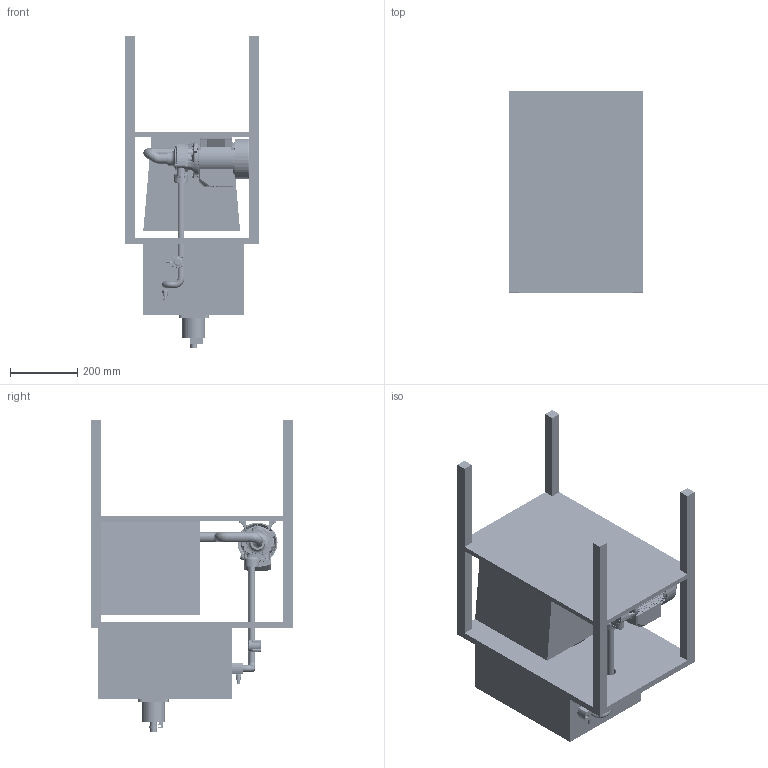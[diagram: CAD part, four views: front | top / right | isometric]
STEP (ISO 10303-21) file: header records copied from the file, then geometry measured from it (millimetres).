
FILE_DESCRIPTION(/* description */ (''),/* implementation_level */ '2;1');
FILE_NAME(/* name */ 'Assieme_banco_pelton_V2.stp',/* time_stamp */ '2025-03-23T11:12:40+01:00',/* author */ ('R5800u'),/* organization */ (''),/* preprocessor_version */ 'ST-DEVELOPER v20',/* originating_system */ 'Autodesk Inventor 2025',/* authorisation */ '');
FILE_SCHEMA (('AUTOMOTIVE_DESIGN { 1 0 10303 214 3 1 1 }'));
Products named in the file (80): Assieme_banco_turgo; Assieme_turgo_frame; Assieme2; frame_superficie; SOLID; tslot-20x20-3; tslot-20x20-2; tslot-20x20-3_MIR1; SNSD20x20; SNSD20x20_MIR; tslot-20x20-2_MIR1; lastra_top; lastra_laterale1; lastra_laterale3; lastra_laterale2; tslot 2040; SKF51104; albero_2; %3% BS 290 - SKF 61804; blocco_albero; BS EN ISO 4762 - M4 x 35; tavolo; PERIPHERAL WATER PUMP; CASING WITH WOUND STATOR; TERMINAL COVER; BOLT(4); FAN COVER; FAIRLEAD; PUMP CASING; CHARGE PLUG; CAPACITOR; SHAFT; FAN; TAPON TRANSPARENTE; ROTOR; PUMP SUPPORT; IMPELLER; DRIVING CAP; O RING (2); BOLT(3)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
Assembly tree (191 placements, depth 4):
  Assieme_banco_turgo
    Assieme_turgo_frame
      Assieme2
        frame_superficie
        SOLID  x4
        tslot-20x20-3  x2
        tslot-20x20-2  x2
        tslot-20x20-3_MIR1  x2
        SNSD20x20  x8
        SNSD20x20_MIR  x8
        tslot-20x20-2_MIR1  x2
      lastra_top
      lastra_laterale1  x2
      lastra_laterale3
      lastra_laterale2
      tslot 2040
    SKF51104
    albero_2
    %3% BS 290 - SKF 61804
    blocco_albero
    BS EN ISO 4762 - M4 x 35  x2
    tavolo
    PERIPHERAL WATER PUMP
      CASING WITH WOUND STATOR
      TERMINAL COVER
      BOLT(4)  x2
      FAN COVER
      FAIRLEAD
      PUMP CASING
      CHARGE PLUG
      CAPACITOR
      SHAFT
      FAN
      TAPON TRANSPARENTE  x2
      ROTOR
      PUMP SUPPORT
      IMPELLER
      DRIVING CAP
      O RING (2)
      BOLT(3)  x3
      BOLT(2)  x6
      EMPAQUE UNION
      DROPS GUARD
        EMPAQUE2-3
        EMPAQUE2-2
      MECHANICAL SEAL
        PARTE 2 EMPAQUE
        PARTE 1 EMPAQUE
        PARTE 3 EMPAQUE
        PARTE 4 EMPAQUE
        WASHER
      SNAP RING
      BEARING  x2
      COIL
        PLACA ENBOBINADO  x56
        Pieza3^COIL
        Pieza1^COIL
      CABLE PRESSER
      SCREW  x3
      O RING
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Bounding box: 400 x 600 x 927.6 mm (x, y, z)
Volume: 15852629.3 mm3; surface area: 5070602.2 mm2
Topology: 1688 solids, 1688 shells, 22561 faces, 55482 edges, 36252 vertices
Faces by surface type: cylinder 10219, plane 9696, bspline 1692, torus 440, cone 398, sphere 116
Full cylindrical faces by diameter (mm): 0.08 x19, 0.5 x1, 0.596 x1440, 1 x4, 1.3 x75, 1.5 x2, 1.8 x1, 2 x2, 2.65 x2, 2.69 x3, 2.7 x1, 2.8 x11, 2.845 x76, 3 x6, 3.2 x1, 3.242 x2, 3.4 x114, 3.9 x3, 4 x4, 4.2 x12, 4.3 x16, 4.35 x2, 4.5 x6, 4.6 x2, 5 x29, 5.2 x2, 5.3 x4, 5.563 x4, 5.7 x4, 6.3 x1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
Entity records: 378512 total; most frequent: CARTESIAN_POINT 155358, DIRECTION 46362, ORIENTED_EDGE 41482, EDGE_CURVE 20741, AXIS2_PLACEMENT_3D 18088, VERTEX_POINT 13522, EDGE_LOOP 11535, ADVANCED_FACE 10573
